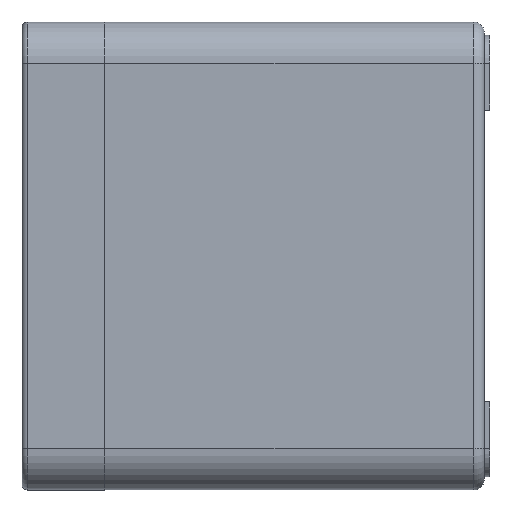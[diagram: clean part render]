
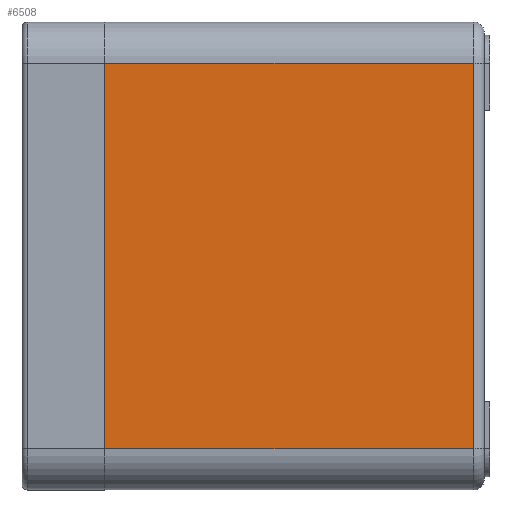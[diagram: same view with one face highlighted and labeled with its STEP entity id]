
A CAD part, left-side view. The second image highlights one B-rep face of the part: STEP entity #6508.
In plain terms, the highlighted planar face has unit normal (-1, 0, 0).
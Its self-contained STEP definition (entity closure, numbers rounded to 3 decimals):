
#45 = CARTESIAN_POINT ( 'NONE',  ( -42.5, 0., -35. ) ) ;
#1930 = VECTOR ( 'NONE', #2784, 1000. ) ;
#2229 = CARTESIAN_POINT ( 'NONE',  ( -42.5, -69., -35. ) ) ;
#2642 = CARTESIAN_POINT ( 'NONE',  ( -42.5, -69., 35. ) ) ;
#2728 = DIRECTION ( 'NONE',  ( 0., 0., 1. ) ) ;
#2784 = DIRECTION ( 'NONE',  ( 0., 0., 1. ) ) ;
#2872 = CARTESIAN_POINT ( 'NONE',  ( -42.5, 0., -35. ) ) ;
#3631 = AXIS2_PLACEMENT_3D ( 'NONE', #8672, #21740, #10585 ) ;
#3798 = VECTOR ( 'NONE', #15520, 1000. ) ;
#5262 = ORIENTED_EDGE ( 'NONE', *, *, #13015, .T. ) ;
#5280 = VERTEX_POINT ( 'NONE', #12511 ) ;
#6179 = ORIENTED_EDGE ( 'NONE', *, *, #14699, .F. ) ;
#6508 = ADVANCED_FACE ( 'NONE', ( #22684 ), #21652, .T. ) ;
#8672 = CARTESIAN_POINT ( 'NONE',  ( -42.5, -69., -35. ) ) ;
#9239 = VECTOR ( 'NONE', #15908, 1000. ) ;
#9680 = ORIENTED_EDGE ( 'NONE', *, *, #21814, .T. ) ;
#10273 = CARTESIAN_POINT ( 'NONE',  ( -42.5, -67., 35. ) ) ;
#10409 = CARTESIAN_POINT ( 'NONE',  ( -42.5, 0., 35. ) ) ;
#10585 = DIRECTION ( 'NONE',  ( 0., 0., 1. ) ) ;
#11135 = VERTEX_POINT ( 'NONE', #45 ) ;
#11223 = EDGE_CURVE ( 'NONE', #15768, #11135, #13887, .T. ) ;
#12511 = CARTESIAN_POINT ( 'NONE',  ( -42.5, -67., 35. ) ) ;
#13015 = EDGE_CURVE ( 'NONE', #5280, #17077, #23528, .T. ) ;
#13887 = LINE ( 'NONE', #2229, #3798 ) ;
#14699 = EDGE_CURVE ( 'NONE', #11135, #17077, #17042, .T. ) ;
#15520 = DIRECTION ( 'NONE',  ( 0., 1., 0. ) ) ;
#15768 = VERTEX_POINT ( 'NONE', #22594 ) ;
#15908 = DIRECTION ( 'NONE',  ( 0., 1., 0. ) ) ;
#16500 = ORIENTED_EDGE ( 'NONE', *, *, #11223, .F. ) ;
#17042 = LINE ( 'NONE', #2872, #1930 ) ;
#17077 = VERTEX_POINT ( 'NONE', #10409 ) ;
#17211 = VECTOR ( 'NONE', #2728, 1000. ) ;
#17936 = EDGE_LOOP ( 'NONE', ( #16500, #9680, #5262, #6179 ) ) ;
#21652 = PLANE ( 'NONE',  #3631 ) ;
#21740 = DIRECTION ( 'NONE',  ( -1., 0., 0. ) ) ;
#21814 = EDGE_CURVE ( 'NONE', #15768, #5280, #22087, .T. ) ;
#22087 = LINE ( 'NONE', #10273, #17211 ) ;
#22594 = CARTESIAN_POINT ( 'NONE',  ( -42.5, -67., -35. ) ) ;
#22684 = FACE_OUTER_BOUND ( 'NONE', #17936, .T. ) ;
#23528 = LINE ( 'NONE', #2642, #9239 ) ;
